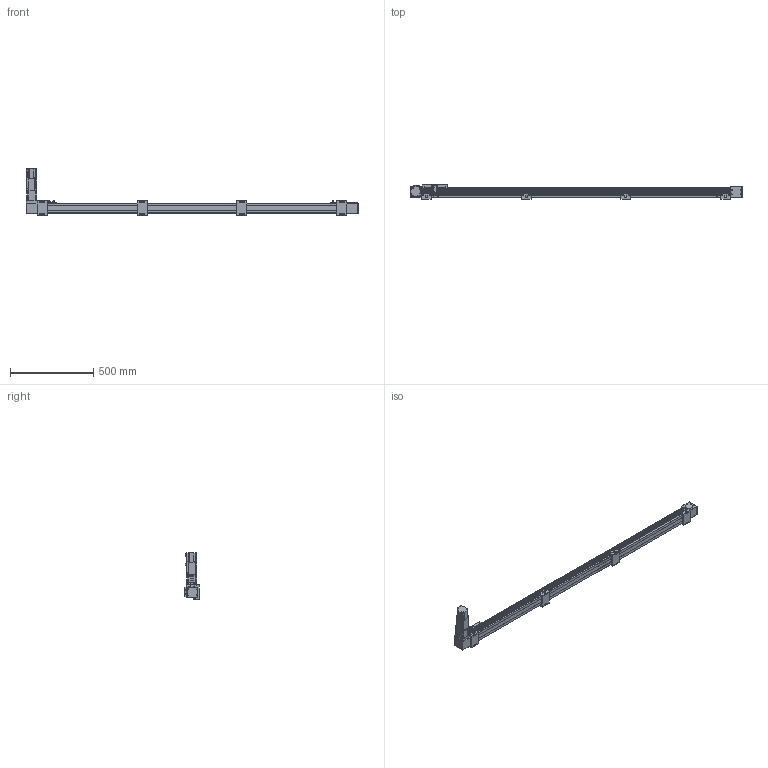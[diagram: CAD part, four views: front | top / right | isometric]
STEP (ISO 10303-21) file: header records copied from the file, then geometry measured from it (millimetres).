
FILE_DESCRIPTION(/* description */ ('STEP AP203'),/* implementation_level */ '2;1');
FILE_NAME(/* name */ 'SK60-P13-S1700-BL-T40-C1-N(0)',/* time_stamp */ '2023-04-06T03:37:22+02:00',/* author */ ('License CC BY-ND 4.0'),/* organization */ ('CADENAS'),/* preprocessor_version */ 'ST-DEVELOPER v19.3',/* originating_system */ 'PARTsolutions',/* authorisation */ ' ');
FILE_SCHEMA (('CONFIG_CONTROL_DESIGN'));
Length unit declared in the file: millimetre
Products named in the file (11): SK60-P13-S1700-BL-T40-C1-N(0); PSC140-sensor; SK60-S450_seat; SK60-S450-BL-C1_slider; SK60_body3; SK60_body6; SK60-BL_body2; T40-p1; SK60_body5; SK60_body4; SK60-S1700-BL-C1_body
Assembly tree (19 placements, depth 2):
  SK60-P13-S1700-BL-T40-C1-N(0)
    PSC140-sensor  x3
    SK60-S450_seat  x4
    SK60-S450-BL-C1_slider
    SK60_body3  x3
    SK60_body6  x2
    SK60-BL_body2  x2
    T40-p1
    SK60_body5
    SK60_body4
    SK60-S1700-BL-C1_body
Bounding box: 2000 x 90 x 278.2 mm (x, y, z)
Volume: 7408255.8 mm3; surface area: 940808.8 mm2
Topology: 19 solids, 23 shells, 922 faces, 2305 edges, 1522 vertices
Faces by surface type: plane 592, cylinder 298, cone 30, torus 2
Full cylindrical faces by diameter (mm): 2.8 x3, 3.3 x4, 4.2 x8, 4.5 x26, 4.6 x3, 4.917 x24, 5 x2, 5.478 x4, 5.5 x27, 6.5 x8, 8 x4, 8.5 x4, 9.988 x4, 10 x16, 13.556 x1, 14 x1, 14.586 x1, 19.692 x1, 38.432 x2, 43 x1, 44 x3, 47 x2, 50 x2
Entity records: 19387 total; most frequent: DIRECTION 3296, CARTESIAN_POINT 3291, ORIENTED_EDGE 3050, EDGE_CURVE 1525, AXIS2_PLACEMENT_3D 1102, LINE 1092, VECTOR 1092, VERTEX_POINT 1077
